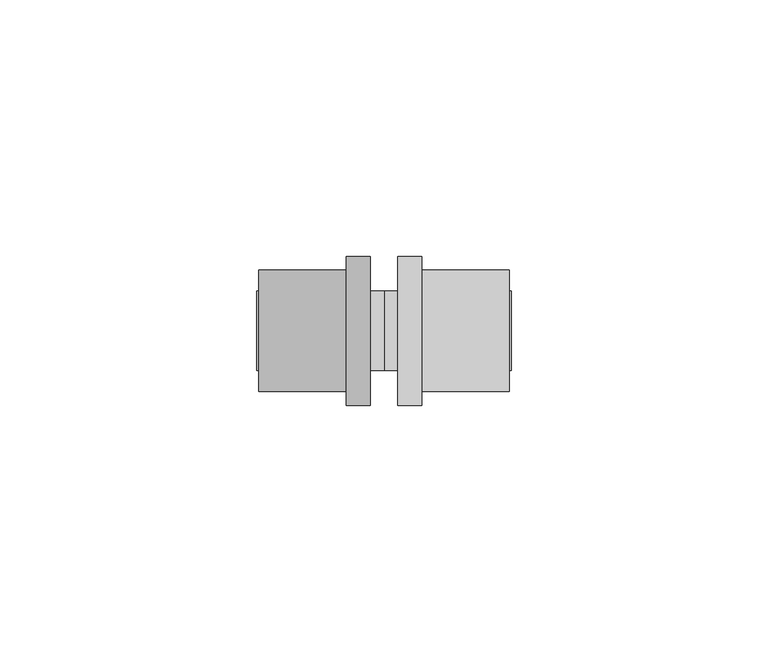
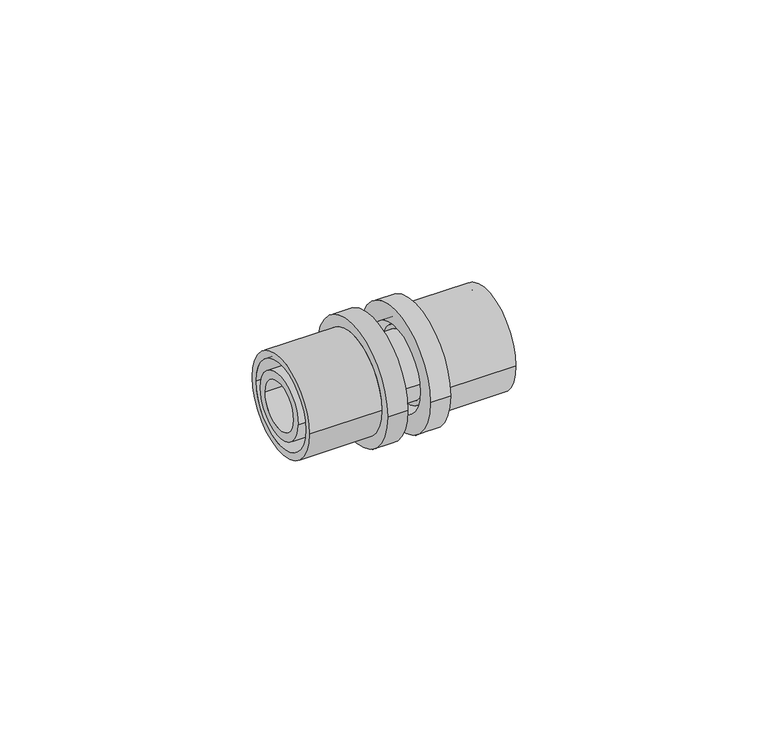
"""IFC4 building model written with IfcOpenShell, lengths in millimetres: pipe fitting geometry, FASTLOC_Coupling equal EX+ : FSL C EX AT."""

from ifc_helpers import new_model, si_unit, frame, origin, place, context, project, spatial, polyline, circle_curve, source, transform, mapped, element, save
from ifc_brep_helpers import plane_surface, cylinder_surface, revolved_surface, advanced_brep


def pipe_fitting_f8e3a86c(model_context):
    return source(origin(), model_context, "Body", "AdvancedBrep", [
        advanced_brep(
        [(7.4, 14.5, 0.0), (7.4, -14.5, 0.0), (2.7, -14.5, 0.0), (2.7, 14.5, 0.0), (24.4, 11.85, 0.0), (24.4, -11.85, 0.0), (7.4, -11.85, 0.0), (7.4, 11.85, 0.0), (2.7, 10.15, 0.0), (2.7, -10.15, 0.0), (24.4, -10.15, 0.0), (24.4, 10.15, 0.0)],
        [
            (0, 1, circle_curve(frame((7.4, 0.0, 0.0), z_axis=(-1.0, 0.0, 0.0), x_axis=(0.0, -1.0, 0.0)), 14.5)),
            (1, 2),
            (2, 3, circle_curve(frame((2.7, 0.0, 0.0), z_axis=(1.0, 0.0, 0.0), x_axis=(0.0, -1.0, 0.0)), 14.5)),
            (3, 0),
            (4, 5, circle_curve(frame((24.4, 0.0, 0.0), z_axis=(-1.0, 0.0, 0.0), x_axis=(0.0, -1.0, 0.0)), 11.85)),
            (5, 6),
            (6, 7, circle_curve(frame((7.4, 0.0, 0.0), z_axis=(1.0, 0.0, 0.0), x_axis=(0.0, -1.0, 0.0)), 11.85)),
            (7, 4),
            (8, 9, circle_curve(frame((2.7, 0.0, 0.0), z_axis=(-1.0, 0.0, 0.0), x_axis=(0.0, -1.0, 0.0)), 10.15)),
            (9, 10),
            (10, 11, circle_curve(frame((24.4, 0.0, 0.0), z_axis=(1.0, 0.0, 0.0), x_axis=(0.0, -1.0, 0.0)), 10.15)),
            (11, 8),
            (1, 0, circle_curve(frame((7.4, 0.0, 0.0), z_axis=(-1.0, 0.0, 0.0), x_axis=(0.0, 1.0, 0.0)), 14.5)),
            (3, 2, circle_curve(frame((2.7, 0.0, 0.0), z_axis=(1.0, 0.0, 0.0), x_axis=(0.0, 1.0, 0.0)), 14.5)),
            (6, 7, circle_curve(frame((7.4, 0.0, 0.0), z_axis=(-1.0, 0.0, 0.0), x_axis=(0.0, 1.0, 0.0)), 11.85)),
            (5, 4, circle_curve(frame((24.4, 0.0, 0.0), z_axis=(-1.0, 0.0, 0.0), x_axis=(0.0, 1.0, 0.0)), 11.85)),
            (10, 11, circle_curve(frame((24.4, 0.0, 0.0), z_axis=(-1.0, 0.0, 0.0), x_axis=(0.0, 1.0, 0.0)), 10.15)),
            (9, 8, circle_curve(frame((2.7, 0.0, 0.0), z_axis=(-1.0, 0.0, 0.0), x_axis=(0.0, 1.0, 0.0)), 10.15)),
        ],
        [
            cylinder_surface(frame((2.7, 0.0, 0.0), z_axis=(1.0, 0.0, 0.0), x_axis=(0.0, -1.0, 0.0)), 14.5),
            cylinder_surface(frame((2.7, 0.0, 0.0), z_axis=(1.0, 0.0, 0.0), x_axis=(0.0, -1.0, 0.0)), 11.85),
            revolved_surface(polyline([(24.4, -10.15, 0.0), (2.7, -10.15, 0.0)]), (2.7, 0.0, 0.0), (1.0, 0.0, 0.0)),
            cylinder_surface(frame((2.7, 0.0, 0.0), z_axis=(1.0, 0.0, 0.0), x_axis=(0.0, 1.0, 0.0)), 14.5),
            plane_surface(frame((7.4, 0.0, 0.0), z_axis=(1.0, 0.0, 0.0), x_axis=(0.0, 1.0, 0.0))),
            cylinder_surface(frame((2.7, 0.0, 0.0), z_axis=(1.0, 0.0, 0.0), x_axis=(0.0, 1.0, 0.0)), 11.85),
            plane_surface(frame((24.4, 0.0, 0.0), z_axis=(1.0, 0.0, 0.0), x_axis=(0.0, 1.0, 0.0))),
            revolved_surface(polyline([(24.4, 10.15, 0.0), (2.7, 10.15, 0.0)]), (2.7, 0.0, 0.0), (1.0, 0.0, 0.0)),
            plane_surface(frame((2.7, 0.0, 0.0), z_axis=(-1.0, 0.0, 0.0), x_axis=(0.0, 1.0, 0.0))),
        ],
        [
            (0, [[1, 2, 3, 4]]),
            (1, [[5, 6, 7, 8]]),
            (2, [[9, 10, 11, 12]]),
            (3, [[13, -4, 14, -2]]),
            (4, [[-13, -1], [15, -7]]),
            (5, [[16, -8, -15, -6]]),
            (6, [[-16, -5], [17, -11]]),
            (7, [[18, -12, -17, -10]]),
            (8, [[-14, -3], [-18, -9]]),
        ],
    ),
        advanced_brep(
        [(-7.4, -14.5, 0.0), (-7.4, 14.5, 0.0), (-2.7, 14.5, 0.0), (-2.7, -14.5, 0.0), (-24.4, -11.85, 0.0), (-24.4, 11.85, 0.0), (-7.4, 11.85, 0.0), (-7.4, -11.85, 0.0), (-2.7, -10.15, 0.0), (-2.7, 10.15, 0.0), (-24.4, 10.15, 0.0), (-24.4, -10.15, 0.0)],
        [
            (0, 1, circle_curve(frame((-7.4, 0.0, 0.0), z_axis=(1.0, 0.0, 0.0), x_axis=(0.0, 1.0, 0.0)), 14.5)),
            (1, 2),
            (2, 3, circle_curve(frame((-2.7, 0.0, 0.0), z_axis=(-1.0, 0.0, 0.0), x_axis=(0.0, 1.0, 0.0)), 14.5)),
            (3, 0),
            (4, 5, circle_curve(frame((-24.4, 0.0, 0.0), z_axis=(1.0, 0.0, 0.0), x_axis=(0.0, 1.0, 0.0)), 11.85)),
            (5, 6),
            (6, 7, circle_curve(frame((-7.4, 0.0, 0.0), z_axis=(-1.0, 0.0, 0.0), x_axis=(0.0, 1.0, 0.0)), 11.85)),
            (7, 4),
            (8, 9, circle_curve(frame((-2.7, 0.0, 0.0), z_axis=(1.0, 0.0, 0.0), x_axis=(0.0, 1.0, 0.0)), 10.15)),
            (9, 10),
            (10, 11, circle_curve(frame((-24.4, 0.0, 0.0), z_axis=(-1.0, 0.0, 0.0), x_axis=(0.0, 1.0, 0.0)), 10.15)),
            (11, 8),
            (1, 0, circle_curve(frame((-7.4, 0.0, 0.0), z_axis=(1.0, 0.0, 0.0), x_axis=(0.0, -1.0, 0.0)), 14.5)),
            (3, 2, circle_curve(frame((-2.7, 0.0, 0.0), z_axis=(-1.0, 0.0, 0.0), x_axis=(0.0, -1.0, 0.0)), 14.5)),
            (6, 7, circle_curve(frame((-7.4, 0.0, 0.0), z_axis=(1.0, 0.0, 0.0), x_axis=(0.0, -1.0, 0.0)), 11.85)),
            (5, 4, circle_curve(frame((-24.4, 0.0, 0.0), z_axis=(1.0, 0.0, 0.0), x_axis=(0.0, -1.0, 0.0)), 11.85)),
            (10, 11, circle_curve(frame((-24.4, 0.0, 0.0), z_axis=(1.0, 0.0, 0.0), x_axis=(0.0, -1.0, 0.0)), 10.15)),
            (9, 8, circle_curve(frame((-2.7, 0.0, 0.0), z_axis=(1.0, 0.0, 0.0), x_axis=(0.0, -1.0, 0.0)), 10.15)),
        ],
        [
            cylinder_surface(frame((-2.7, 0.0, 0.0), z_axis=(-1.0, 0.0, 0.0), x_axis=(0.0, 1.0, 0.0)), 14.5),
            cylinder_surface(frame((-2.7, 0.0, 0.0), z_axis=(-1.0, 0.0, 0.0), x_axis=(0.0, 1.0, 0.0)), 11.85),
            revolved_surface(polyline([(-24.4, 10.15, 0.0), (-2.7, 10.15, 0.0)]), (-2.7, 0.0, 0.0), (-1.0, 0.0, 0.0)),
            cylinder_surface(frame((-2.7, 0.0, 0.0), z_axis=(-1.0, 0.0, 0.0), x_axis=(0.0, -1.0, 0.0)), 14.5),
            plane_surface(frame((-7.4, 0.0, 0.0), z_axis=(-1.0, 0.0, 0.0), x_axis=(0.0, -1.0, 0.0))),
            cylinder_surface(frame((-2.7, 0.0, 0.0), z_axis=(-1.0, 0.0, 0.0), x_axis=(0.0, -1.0, 0.0)), 11.85),
            plane_surface(frame((-24.4, 0.0, 0.0), z_axis=(-1.0, 0.0, 0.0), x_axis=(0.0, -1.0, 0.0))),
            revolved_surface(polyline([(-24.4, -10.15, 0.0), (-2.7, -10.15, 0.0)]), (-2.7, 0.0, 0.0), (-1.0, 0.0, 0.0)),
            plane_surface(frame((-2.7, 0.0, 0.0), z_axis=(1.0, 0.0, 0.0), x_axis=(0.0, -1.0, 0.0))),
        ],
        [
            (0, [[1, 2, 3, 4]]),
            (1, [[5, 6, 7, 8]]),
            (2, [[9, 10, 11, 12]]),
            (3, [[13, -4, 14, -2]]),
            (4, [[-13, -1], [15, -7]]),
            (5, [[16, -8, -15, -6]]),
            (6, [[-16, -5], [17, -11]]),
            (7, [[18, -12, -17, -10]]),
            (8, [[-14, -3], [-18, -9]]),
        ],
    ),
        advanced_brep(
        [(7.4, 8.8, 0.0), (7.4, -8.8, 0.0), (4.7, -8.8, 0.0), (4.7, 8.8, 0.0), (24.8, 7.75, 0.0), (24.8, -7.75, 0.0), (7.4, -7.75, 0.0), (7.4, 7.75, 0.0), (-24.8, 5.75, 0.0), (-24.8, -5.75, 0.0), (24.8, -5.75, 0.0), (24.8, 5.75, 0.0), (-7.4, 7.75, 0.0), (-7.4, -7.75, 0.0), (-24.8, -7.75, 0.0), (-24.8, 7.75, 0.0), (-4.7, 8.8, 0.0), (-4.7, -8.8, 0.0), (-7.4, -8.8, 0.0), (-7.4, 8.8, 0.0), (0.0, 7.75, 0.0), (0.0, -7.75, 0.0), (-4.7, -7.75, 0.0), (-4.7, 7.75, 0.0), (4.7, 7.75, 0.0), (4.7, -7.75, 0.0)],
        [
            (0, 1, circle_curve(frame((7.4, 0.0, 0.0), z_axis=(-1.0, 0.0, 0.0), x_axis=(0.0, -1.0, 0.0)), 8.8)),
            (1, 2),
            (2, 3, circle_curve(frame((4.7, 0.0, 0.0), z_axis=(1.0, 0.0, 0.0), x_axis=(0.0, -1.0, 0.0)), 8.8)),
            (3, 0),
            (4, 5, circle_curve(frame((24.8, 0.0, 0.0), z_axis=(-1.0, 0.0, 0.0), x_axis=(0.0, -1.0, 0.0)), 7.75)),
            (5, 6),
            (6, 7, circle_curve(frame((7.4, 0.0, 0.0), z_axis=(1.0, 0.0, 0.0), x_axis=(0.0, -1.0, 0.0)), 7.75)),
            (7, 4),
            (8, 9, circle_curve(frame((-24.8, 0.0, 0.0), z_axis=(-1.0, 0.0, 0.0), x_axis=(0.0, -1.0, 0.0)), 5.75)),
            (9, 10),
            (10, 11, circle_curve(frame((24.8, 0.0, 0.0), z_axis=(1.0, 0.0, 0.0), x_axis=(0.0, -1.0, 0.0)), 5.75)),
            (11, 8),
            (12, 13, circle_curve(frame((-7.4, 0.0, 0.0), z_axis=(-1.0, 0.0, 0.0), x_axis=(0.0, -1.0, 0.0)), 7.75)),
            (13, 14),
            (14, 15, circle_curve(frame((-24.8, 0.0, 0.0), z_axis=(1.0, 0.0, 0.0), x_axis=(0.0, -1.0, 0.0)), 7.75)),
            (15, 12),
            (16, 17, circle_curve(frame((-4.7, 0.0, 0.0), z_axis=(-1.0, 0.0, 0.0), x_axis=(0.0, -1.0, 0.0)), 8.8)),
            (17, 18),
            (18, 19, circle_curve(frame((-7.4, 0.0, 0.0), z_axis=(1.0, 0.0, 0.0), x_axis=(0.0, -1.0, 0.0)), 8.8)),
            (19, 16),
            (20, 21, circle_curve(frame((0.0, 0.0, 0.0), z_axis=(-1.0, 0.0, 0.0), x_axis=(0.0, -1.0, 0.0)), 7.75)),
            (21, 22),
            (22, 23, circle_curve(frame((-4.7, 0.0, 0.0), z_axis=(1.0, 0.0, 0.0), x_axis=(0.0, -1.0, 0.0)), 7.75)),
            (23, 20),
            (24, 25, circle_curve(frame((4.7, 0.0, 0.0), z_axis=(-1.0, 0.0, 0.0), x_axis=(0.0, -1.0, 0.0)), 7.75)),
            (25, 21),
            (20, 24),
            (1, 0, circle_curve(frame((7.4, 0.0, 0.0), z_axis=(-1.0, 0.0, 0.0), x_axis=(0.0, 1.0, 0.0)), 8.8)),
            (3, 2, circle_curve(frame((4.7, 0.0, 0.0), z_axis=(1.0, 0.0, 0.0), x_axis=(0.0, 1.0, 0.0)), 8.8)),
            (6, 7, circle_curve(frame((7.4, 0.0, 0.0), z_axis=(-1.0, 0.0, 0.0), x_axis=(0.0, 1.0, 0.0)), 7.75)),
            (5, 4, circle_curve(frame((24.8, 0.0, 0.0), z_axis=(-1.0, 0.0, 0.0), x_axis=(0.0, 1.0, 0.0)), 7.75)),
            (10, 11, circle_curve(frame((24.8, 0.0, 0.0), z_axis=(-1.0, 0.0, 0.0), x_axis=(0.0, 1.0, 0.0)), 5.75)),
            (9, 8, circle_curve(frame((-24.8, 0.0, 0.0), z_axis=(-1.0, 0.0, 0.0), x_axis=(0.0, 1.0, 0.0)), 5.75)),
            (14, 15, circle_curve(frame((-24.8, 0.0, 0.0), z_axis=(-1.0, 0.0, 0.0), x_axis=(0.0, 1.0, 0.0)), 7.75)),
            (13, 12, circle_curve(frame((-7.4, 0.0, 0.0), z_axis=(-1.0, 0.0, 0.0), x_axis=(0.0, 1.0, 0.0)), 7.75)),
            (18, 19, circle_curve(frame((-7.4, 0.0, 0.0), z_axis=(-1.0, 0.0, 0.0), x_axis=(0.0, 1.0, 0.0)), 8.8)),
            (17, 16, circle_curve(frame((-4.7, 0.0, 0.0), z_axis=(-1.0, 0.0, 0.0), x_axis=(0.0, 1.0, 0.0)), 8.8)),
            (22, 23, circle_curve(frame((-4.7, 0.0, 0.0), z_axis=(-1.0, 0.0, 0.0), x_axis=(0.0, 1.0, 0.0)), 7.75)),
            (21, 20, circle_curve(frame((0.0, 0.0, 0.0), z_axis=(-1.0, 0.0, 0.0), x_axis=(0.0, 1.0, 0.0)), 7.75)),
            (25, 24, circle_curve(frame((4.7, 0.0, 0.0), z_axis=(-1.0, 0.0, 0.0), x_axis=(0.0, 1.0, 0.0)), 7.75)),
        ],
        [
            cylinder_surface(frame((0.0, 0.0, 0.0), z_axis=(1.0, 0.0, 0.0), x_axis=(0.0, -1.0, 0.0)), 8.8),
            cylinder_surface(frame((0.0, 0.0, 0.0), z_axis=(1.0, 0.0, 0.0), x_axis=(0.0, -1.0, 0.0)), 7.75),
            revolved_surface(polyline([(24.8, -5.75, 0.0), (-24.8, -5.75, 0.0)]), (0.0, 0.0, 0.0), (1.0, 0.0, 0.0)),
            cylinder_surface(frame((0.0, 0.0, 0.0), z_axis=(1.0, 0.0, 0.0), x_axis=(0.0, 1.0, 0.0)), 8.8),
            plane_surface(frame((7.4, 0.0, 0.0), z_axis=(1.0, 0.0, 0.0), x_axis=(0.0, 1.0, 0.0))),
            cylinder_surface(frame((0.0, 0.0, 0.0), z_axis=(1.0, 0.0, 0.0), x_axis=(0.0, 1.0, 0.0)), 7.75),
            plane_surface(frame((24.8, 0.0, 0.0), z_axis=(1.0, 0.0, 0.0), x_axis=(0.0, 1.0, 0.0))),
            revolved_surface(polyline([(24.8, 5.75, 0.0), (-24.8, 5.75, 0.0)]), (0.0, 0.0, 0.0), (1.0, 0.0, 0.0)),
            plane_surface(frame((-24.8, 0.0, 0.0), z_axis=(-1.0, 0.0, 0.0), x_axis=(0.0, 1.0, 0.0))),
            plane_surface(frame((-7.4, 0.0, 0.0), z_axis=(-1.0, 0.0, 0.0), x_axis=(0.0, 1.0, 0.0))),
            plane_surface(frame((-4.7, 0.0, 0.0), z_axis=(1.0, 0.0, 0.0), x_axis=(0.0, 1.0, 0.0))),
            plane_surface(frame((4.7, 0.0, 0.0), z_axis=(-1.0, 0.0, 0.0), x_axis=(0.0, 1.0, 0.0))),
        ],
        [
            (0, [[1, 2, 3, 4]]),
            (1, [[5, 6, 7, 8]]),
            (2, [[9, 10, 11, 12]]),
            (1, [[13, 14, 15, 16]]),
            (0, [[17, 18, 19, 20]]),
            (1, [[21, 22, 23, 24]]),
            (1, [[25, 26, -21, 27]]),
            (3, [[28, -4, 29, -2]]),
            (4, [[-28, -1], [30, -7]]),
            (5, [[31, -8, -30, -6]]),
            (6, [[-31, -5], [32, -11]]),
            (7, [[33, -12, -32, -10]]),
            (8, [[34, -15], [-33, -9]]),
            (5, [[35, -16, -34, -14]]),
            (9, [[36, -19], [-35, -13]]),
            (3, [[37, -20, -36, -18]]),
            (10, [[-37, -17], [38, -23]]),
            (5, [[39, -24, -38, -22]]),
            (5, [[40, -27, -39, -26]]),
            (11, [[-29, -3], [-40, -25]]),
        ],
    ),
    ])


if __name__ == "__main__":
    model = new_model("IFC4")
    model_context = context("Model", 3, world=origin())
    ifc_project = project(units=[si_unit("LENGTHUNIT", "METRE", prefix="MILLI")], contexts=[model_context])
    site = spatial("IfcSite", under=ifc_project)
    building = spatial("IfcBuilding", under=site)
    placement = place(None, origin())
    pipe_fitting_shape = pipe_fitting_f8e3a86c(model_context)
    element("IfcPipeFitting", 1, ObjectType="FASTLOC_Coupling equal EX+ : FSL C EX AT", at=placement, inside=building, context=model_context, shape_type="MappedRepresentation", body=[
        mapped(pipe_fitting_shape, transform((0.0, 0.0, 0.0), x_axis=(1.0, 0.0, 0.0), y_axis=(0.0, 1.0, 0.0), z_axis=(0.0, 0.0, 1.0))),
    ])
    save(model, "model.ifc")
